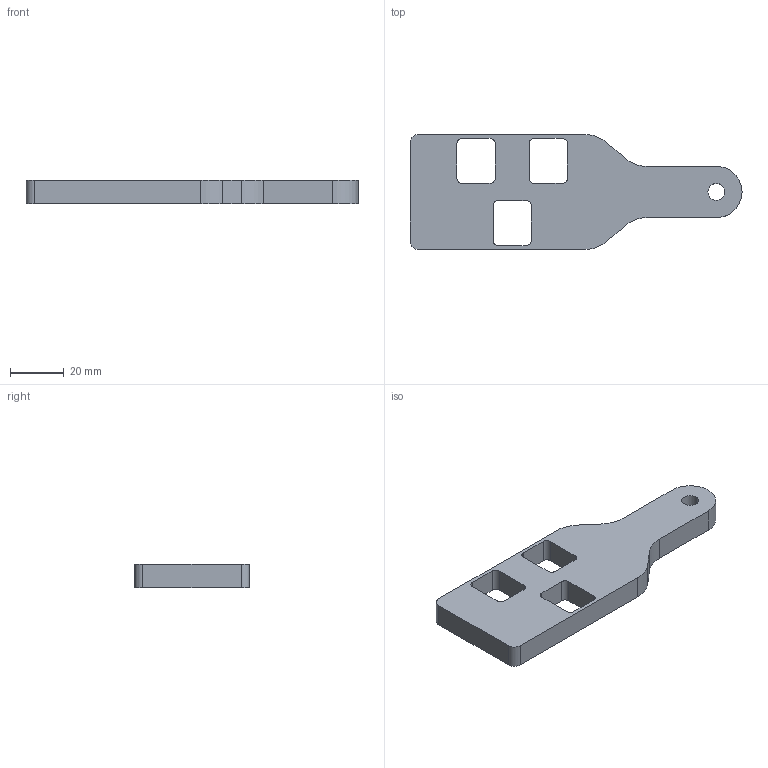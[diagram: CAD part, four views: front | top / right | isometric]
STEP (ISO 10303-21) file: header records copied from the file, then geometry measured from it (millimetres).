
FILE_DESCRIPTION (( 'STEP AP214' ), '1' );
FILE_NAME ('Valve_gate.STEP', '2015-04-16T23:53:10', ( '' ), ( '' ), 'SwSTEP 2.0', 'SolidWorks 2012', '' );
FILE_SCHEMA (( 'AUTOMOTIVE_DESIGN' ));
Length unit declared in the file: inch
Products named in the file (1): Valve_gate
Bounding box: 123.83 x 42.93 x 8.76 mm (x, y, z)
Volume: 29878.8 mm3; surface area: 11221.9 mm2
Topology: 1 solids, 1 shells, 42 faces, 120 edges, 80 vertices
Faces by surface type: cylinder 21, plane 21
Entity records: 1442 total; most frequent: DIRECTION 248, CARTESIAN_POINT 243, ORIENTED_EDGE 240, EDGE_CURVE 120, AXIS2_PLACEMENT_3D 85, VERTEX_POINT 80, LINE 78, VECTOR 78
